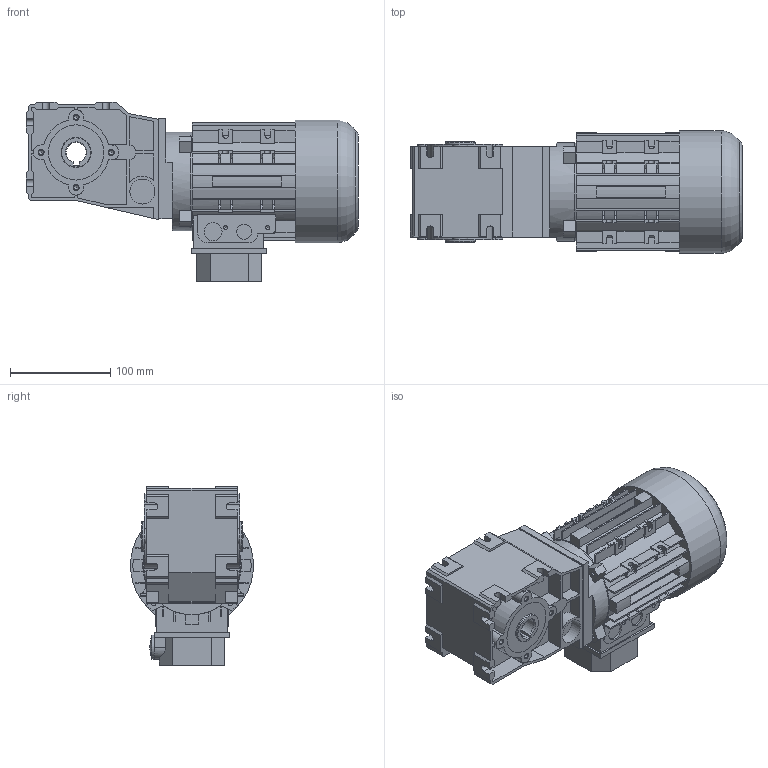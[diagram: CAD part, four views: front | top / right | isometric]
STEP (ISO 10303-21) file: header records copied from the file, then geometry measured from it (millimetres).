
FILE_DESCRIPTION(/* description */ ('Lenze G500-B45 63-32 0,18 kw'),/* implementation_level */ '2;1');
FILE_NAME(/* name */ '\\carryline.intra\privat\users\mathias\Desktop\Tillfälliga filer\Lenze G500-B45 63-32 0,18 kw.stp',/* time_stamp */ '2018-12-10T10:50:17+01:00',/* author */ (''),/* organization */ ('LENZE'),/* preprocessor_version */ 'ST-DEVELOPER v17',/* originating_system */ 'Autodesk Inventor 2018',/* authorisation */ 'unknown authorization');
FILE_SCHEMA (('AUTOMOTIVE_DESIGN { 1 0 10303 214 3 1 1 }'));
Length unit declared in the file: millimetre
Products named in the file (1): Lenze G500-B45 63-32 0,18 kw
Bounding box: 331 x 122.13 x 178.9 mm (x, y, z)
Volume: 3245934.4 mm3; surface area: 415544.9 mm2
Topology: 11 solids, 11 shells, 1120 faces, 3023 edges, 2023 vertices
Faces by surface type: plane 918, cylinder 168, cone 24, torus 7, bspline 3
Full cylindrical faces by diameter (mm): 3.96 x4, 4 x4, 4.79 x8, 4.8 x8, 8 x1, 15 x2, 15.4 x1, 17 x1, 18 x2, 20 x1, 24 x1, 25 x2, 30 x5, 55 x5, 98 x2, 122.6 x1
Entity records: 35382 total; most frequent: CARTESIAN_POINT 6322, ORIENTED_EDGE 6022, DIRECTION 5792, EDGE_CURVE 3011, LINE 2436, VECTOR 2436, VERTEX_POINT 2023, AXIS2_PLACEMENT_3D 1678
